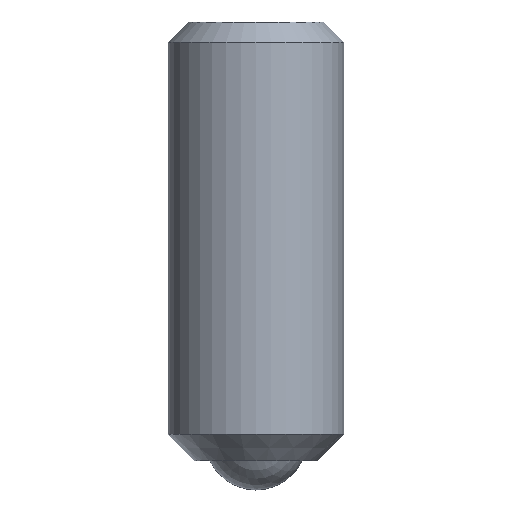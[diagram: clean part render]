
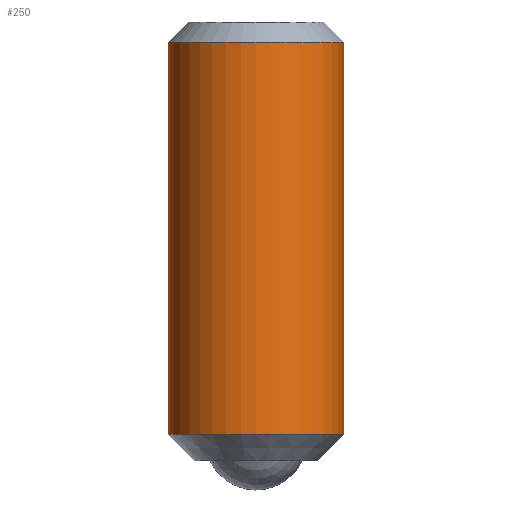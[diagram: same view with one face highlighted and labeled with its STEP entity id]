
A CAD part, front view. The second image highlights one B-rep face of the part: STEP entity #250.
In plain terms, the highlighted cylindrical face has radius 3 mm (diameter 6 mm), a partial arc.
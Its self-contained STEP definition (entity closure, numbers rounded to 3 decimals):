
#30 = CYLINDRICAL_SURFACE ( 'NONE', #474, 3. ) ;
#58 = CARTESIAN_POINT ( 'NONE',  ( 3., 0., 15.3 ) ) ;
#78 = AXIS2_PLACEMENT_3D ( 'NONE', #216, #93, #211 ) ;
#80 = DIRECTION ( 'NONE',  ( 0., 0., 1. ) ) ;
#84 = CARTESIAN_POINT ( 'NONE',  ( -3., 0., -7.485 ) ) ;
#93 = DIRECTION ( 'NONE',  ( 0., 0., 1. ) ) ;
#105 = DIRECTION ( 'NONE',  ( 0., 0., 1. ) ) ;
#124 = CIRCLE ( 'NONE', #486, 3. ) ;
#148 = DIRECTION ( 'NONE',  ( -1., 0., 0. ) ) ;
#156 = CARTESIAN_POINT ( 'NONE',  ( 0., 0., -7.485 ) ) ;
#167 = VERTEX_POINT ( 'NONE', #292 ) ;
#211 = DIRECTION ( 'NONE',  ( 1., 0., 0. ) ) ;
#216 = CARTESIAN_POINT ( 'NONE',  ( 0., 0., 1.9 ) ) ;
#218 = ORIENTED_EDGE ( 'NONE', *, *, #276, .T. ) ;
#232 = CARTESIAN_POINT ( 'NONE',  ( -3., 0., 1.9 ) ) ;
#237 = DIRECTION ( 'NONE',  ( 0., 0., -1. ) ) ;
#250 = ADVANCED_FACE ( 'NONE', ( #361 ), #30, .T. ) ;
#253 = LINE ( 'NONE', #482, #465 ) ;
#266 = VERTEX_POINT ( 'NONE', #58 ) ;
#269 = ORIENTED_EDGE ( 'NONE', *, *, #327, .T. ) ;
#276 = EDGE_CURVE ( 'NONE', #383, #518, #396, .T. ) ;
#292 = CARTESIAN_POINT ( 'NONE',  ( -3., 0., 15.3 ) ) ;
#312 = DIRECTION ( 'NONE',  ( 0., 0., 1. ) ) ;
#313 = VECTOR ( 'NONE', #80, 1000. ) ;
#318 = CARTESIAN_POINT ( 'NONE',  ( 3., 0., 1.9 ) ) ;
#327 = EDGE_CURVE ( 'NONE', #518, #266, #253, .T. ) ;
#328 = ORIENTED_EDGE ( 'NONE', *, *, #454, .T. ) ;
#361 = FACE_OUTER_BOUND ( 'NONE', #459, .T. ) ;
#370 = LINE ( 'NONE', #84, #313 ) ;
#383 = VERTEX_POINT ( 'NONE', #232 ) ;
#396 = CIRCLE ( 'NONE', #78, 3. ) ;
#454 = EDGE_CURVE ( 'NONE', #266, #167, #124, .T. ) ;
#459 = EDGE_LOOP ( 'NONE', ( #485, #218, #269, #328 ) ) ;
#460 = DIRECTION ( 'NONE',  ( 1., 0., 0. ) ) ;
#465 = VECTOR ( 'NONE', #105, 1000. ) ;
#474 = AXIS2_PLACEMENT_3D ( 'NONE', #156, #312, #460 ) ;
#480 = CARTESIAN_POINT ( 'NONE',  ( 0., 0., 15.3 ) ) ;
#482 = CARTESIAN_POINT ( 'NONE',  ( 3., 0., -7.485 ) ) ;
#485 = ORIENTED_EDGE ( 'NONE', *, *, #536, .F. ) ;
#486 = AXIS2_PLACEMENT_3D ( 'NONE', #480, #237, #148 ) ;
#518 = VERTEX_POINT ( 'NONE', #318 ) ;
#536 = EDGE_CURVE ( 'NONE', #383, #167, #370, .T. ) ;
